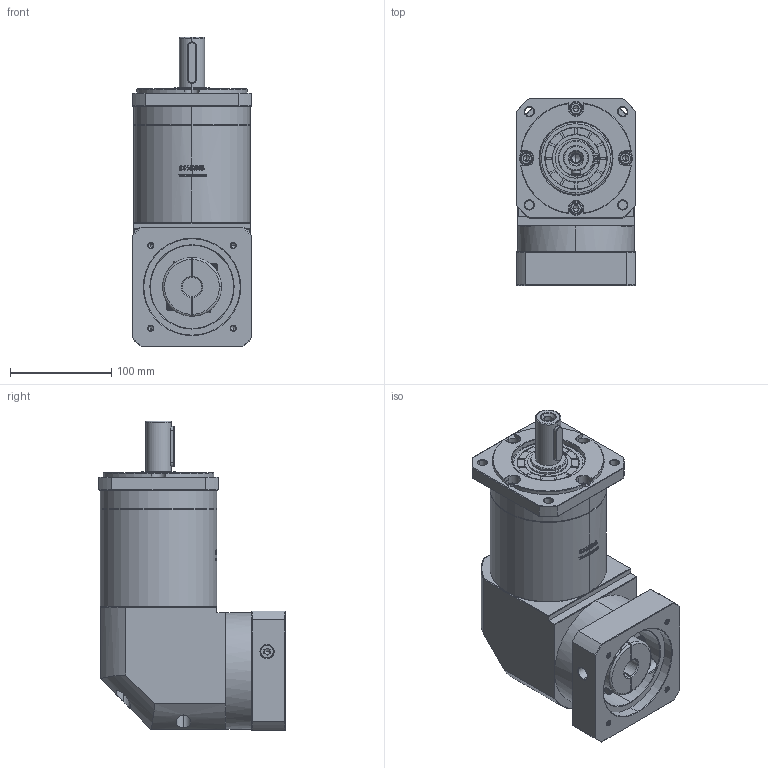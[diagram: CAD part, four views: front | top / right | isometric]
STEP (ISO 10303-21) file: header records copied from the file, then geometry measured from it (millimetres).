
FILE_DESCRIPTION (( 'STEP AP214' ), '1' );
FILE_NAME ('ZFR120A-D25-L3-19-95-115-M6.step', '2023-03-08T08:21:40', ( '' ), ( '' ), 'SwSTEP 2.0', 'SolidWorks 2016', '' );
FILE_SCHEMA (( 'AUTOMOTIVE_DESIGN' ));
Length unit declared in the file: millimetre
Products named in the file (1): ZFR120A-D25-L3-19-95-115-M6
Bounding box: 118 x 183.9 x 305 mm (x, y, z)
Volume: 3391333.4 mm3; surface area: 256362.3 mm2
Topology: 6 solids, 6 shells, 2858 faces, 7639 edges, 4925 vertices
Faces by surface type: plane 1483, bspline 610, cylinder 419, cone 338, torus 8
Entity records: 158191 total; most frequent: CARTESIAN_POINT 61232, ORIENTED_EDGE 15218, DIRECTION 11076, EDGE_CURVE 7609, VERTEX_POINT 4925, VECTOR 4730, LINE 4730, AXIS2_PLACEMENT_3D 3173
